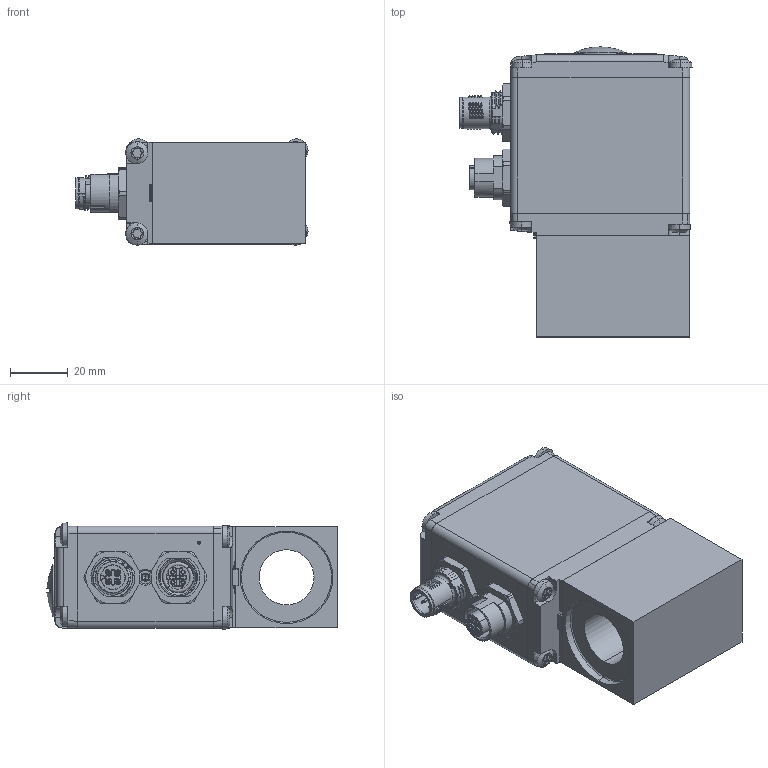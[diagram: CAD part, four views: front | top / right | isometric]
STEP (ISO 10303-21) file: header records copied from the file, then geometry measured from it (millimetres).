
FILE_DESCRIPTION (( 'STEP AP214' ), '1' );
FILE_NAME ('P1.STEP', '2017-03-23T14:47:32', ( '' ), ( '' ), 'SwSTEP 2.0', 'SolidWorks 2016', '' );
FILE_SCHEMA (( 'AUTOMOTIVE_DESIGN' ));
Length unit declared in the file: millimetre
Products named in the file (1): P1
Bounding box: 80.3 x 100.39 x 36.78 mm (x, y, z)
Volume: 109953.2 mm3; surface area: 54444.4 mm2
Topology: 15 solids, 34 shells, 3010 faces, 8155 edges, 5290 vertices
Faces by surface type: plane 1579, cylinder 932, torus 198, cone 184, bspline 88, sphere 29
Entity records: 132289 total; most frequent: CARTESIAN_POINT 24526, ORIENTED_EDGE 16234, DIRECTION 14855, EDGE_CURVE 8117, VERTEX_POINT 5290, VECTOR 5215, LINE 5215, AXIS2_PLACEMENT_3D 4820
